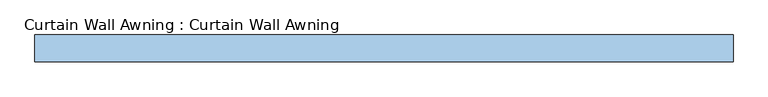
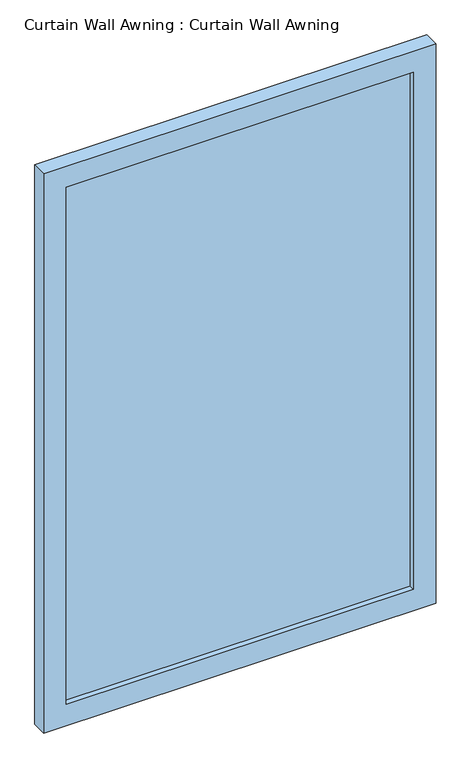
"""IFC4 building model written with IfcOpenShell, lengths in millimetres: window geometry, Curtain Wall Awning : Curtain Wall Awning."""

import ifcopenshell
import ifcopenshell.guid

model = None  # the IFC model being written
_history = None  # IfcOwnerHistory: only IFC2X3 demands one
_inside = {}  # id of a spatial element -> (the spatial element, [elements in it])
_under = {}  # id of a project, library or spatial element -> (it, [spatial elements below it])
_declared = {}  # id of a project -> (the project, [libraries it declares])
_typed = {}  # id of a type object -> (the type object, [elements of that type])
_made_of = {}  # id of a material, layer set ... -> (it, [elements and type objects made of it])


def new_model(schema):
    """Start an empty IFC model of exactly this schema.

    Asked for "IFC4X3", IfcOpenShell would pick the latest addendum, in which some entities
    have other attributes; the version numbers below select the first issue.
    IFC2X3 requires an IfcOwnerHistory on every rooted entity: one is made here for all.
    """
    global model, _history
    if schema == "IFC4X3":
        model = ifcopenshell.file(schema_version=(4, 3, 0, 0))
    else:
        model = ifcopenshell.file(schema=schema)
    _inside.clear()
    _under.clear()
    _declared.clear()
    _typed.clear()
    _made_of.clear()
    _history = None
    if model.schema == "IFC2X3":
        org = make("IfcOrganization", Name="unknown")
        user = make(
            "IfcPersonAndOrganization",
            ThePerson=make("IfcPerson", FamilyName="unknown"),
            TheOrganization=org,
        )
        app = make(
            "IfcApplication",
            ApplicationDeveloper=org,
            Version="unknown",
            ApplicationFullName="unknown",
            ApplicationIdentifier="unknown",
        )
        _history = make(
            "IfcOwnerHistory",
            OwningUser=user,
            OwningApplication=app,
            ChangeAction="ADDED",
            CreationDate=0,
        )
    return model


def make(cls, **values):
    """One entity of the class cls with the attributes given. An attribute that is None is left unset."""
    return model.create_entity(
        cls, **{name: value for name, value in values.items() if value is not None}
    )


def rooted(cls, **values):
    """An entity with a GlobalId (a new one), such as an element, a storey or a relation."""
    return make(cls, GlobalId=ifcopenshell.guid.new(), OwnerHistory=_history, **values)


def si_unit(unit_type, name, prefix=None):
    """IfcSIUnit, for example si_unit("LENGTHUNIT", "METRE", prefix="MILLI")."""
    return make("IfcSIUnit", UnitType=unit_type, Prefix=prefix, Name=name)


def assignment(units):
    """IfcUnitAssignment: the units of a project."""
    return None if units is None else make("IfcUnitAssignment", Units=units)


def point(xyz):
    """IfcCartesianPoint."""
    return None if xyz is None else make("IfcCartesianPoint", Coordinates=xyz)


def direction(xyz):
    """IfcDirection."""
    return None if xyz is None else make("IfcDirection", DirectionRatios=xyz)


def frame(location, z_axis=None, x_axis=None):
    """IfcAxis2Placement3D, a coordinate frame: its origin and axes. An axis left out is left unset."""
    return make(
        "IfcAxis2Placement3D",
        Location=point(location),
        Axis=direction(z_axis),
        RefDirection=direction(x_axis),
    )


def origin():
    """The frame at (0, 0, 0) with its axes left unset."""
    return frame((0.0, 0.0, 0.0))


def place(relative_to, where):
    """IfcLocalPlacement: puts the frame where relative to a parent placement (None: the world)."""
    return make(
        "IfcLocalPlacement", PlacementRelTo=relative_to, RelativePlacement=where
    )


def context(
    kind, dimensions, precision=None, world=None, true_north=None, identifier=None
):
    """IfcGeometricRepresentationContext, for example the 3D "Model" context."""
    return make(
        "IfcGeometricRepresentationContext",
        ContextIdentifier=identifier,
        ContextType=kind,
        CoordinateSpaceDimension=dimensions,
        Precision=precision,
        WorldCoordinateSystem=world,
        TrueNorth=true_north,
    )


def project(units=None, contexts=None):
    """IfcProject with its units and contexts."""
    return rooted(
        "IfcProject",
        Name="project",
        RepresentationContexts=contexts,
        UnitsInContext=assignment(units),
    )


def spatial(cls, under=None, at=None, **own):
    """A site, building, storey or space (cls), placed at a placement, below another one or the project."""
    s = rooted(cls, ObjectPlacement=at, **own)
    if under is not None:
        _under.setdefault(under.id(), (under, []))[1].append(s)
    return s


def polyline(points):
    """IfcPolyline through the points."""
    return make("IfcPolyline", Points=[point(p) for p in points])


def outline(outer, holes=None, kind="AREA"):
    """IfcArbitraryClosedProfileDef: a profile drawn as a closed curve; with holes, ...WithVoids."""
    if holes is None:
        return make("IfcArbitraryClosedProfileDef", ProfileType=kind, OuterCurve=outer)
    return make(
        "IfcArbitraryProfileDefWithVoids",
        ProfileType=kind,
        OuterCurve=outer,
        InnerCurves=holes,
    )


def extrude(swept, where, along, depth):
    """IfcExtrudedAreaSolid: the profile swept, set in the frame where, extruded along a direction by depth."""
    return make(
        "IfcExtrudedAreaSolid",
        SweptArea=swept,
        Position=where,
        ExtrudedDirection=direction(along),
        Depth=depth,
    )


def shape(context_of_items, identifier, shape_type, items):
    """IfcShapeRepresentation: the items that make up one representation, for example the "Body"."""
    return make(
        "IfcShapeRepresentation",
        ContextOfItems=context_of_items,
        RepresentationIdentifier=identifier,
        RepresentationType=shape_type,
        Items=items,
    )


def source(mapping_origin, context_of_items, identifier, shape_type, items):
    """IfcRepresentationMap: a shape defined once, which mapped items show again and again."""
    return make(
        "IfcRepresentationMap",
        MappingOrigin=mapping_origin,
        MappedRepresentation=shape(context_of_items, identifier, shape_type, items),
    )


def transform(
    local_origin,
    x_axis=None,
    y_axis=None,
    z_axis=None,
    scale=None,
    scale2=None,
    scale3=None,
    uniform=True,
):
    """IfcCartesianTransformationOperator3D, or its non-uniform kind. x_axis, y_axis, z_axis: its Axis1, 2, 3."""
    if uniform:
        return make(
            "IfcCartesianTransformationOperator3D",
            Axis1=direction(x_axis),
            Axis2=direction(y_axis),
            LocalOrigin=point(local_origin),
            Scale=scale,
            Axis3=direction(z_axis),
        )
    return make(
        "IfcCartesianTransformationOperator3DnonUniform",
        Axis1=direction(x_axis),
        Axis2=direction(y_axis),
        LocalOrigin=point(local_origin),
        Scale=scale,
        Axis3=direction(z_axis),
        Scale2=scale2,
        Scale3=scale3,
    )


def mapped(mapping_source, mapping_target):
    """IfcMappedItem: shows the shape of a source again, moved by a transform."""
    return make(
        "IfcMappedItem", MappingSource=mapping_source, MappingTarget=mapping_target
    )


def made_of(thing, what):
    """Note that an element or type object is made of a material, layer set ...; save() writes the relation."""
    if what is not None:
        _made_of.setdefault(what.id(), (what, []))[1].append(thing)
    return thing


def element(
    cls,
    number,
    at=None,
    inside=None,
    cuts=None,
    type_object=None,
    material=None,
    context=None,
    identifier="Body",
    shape_type=None,
    held_by="IfcProductDefinitionShape",
    body=None,
    shapes=None,
    **own,
):
    """One element of the class cls, such as IfcWall. Its Tag is "e" and its number.

    at: its placement. inside: the storey or other place that contains it. cuts: it is an
    opening in that element (IfcRelVoidsElement). A single representation is given by context,
    identifier, shape_type and body (its items); several are given by shapes. held_by: the class
    of the entity that holds the representations. save() writes the other relations.
    """
    e = rooted(cls, Tag="e%d" % number, ObjectPlacement=at, **own)
    if body is not None:
        shapes = [shape(context, identifier, shape_type, body)]
    if shapes is not None:
        e.Representation = make(held_by, Representations=shapes)
    if inside is not None:
        _inside.setdefault(inside.id(), (inside, []))[1].append(e)
    if cuts is not None:
        rooted(
            "IfcRelVoidsElement", RelatingBuildingElement=cuts, RelatedOpeningElement=e
        )
    if type_object is not None:
        _typed.setdefault(type_object.id(), (type_object, []))[1].append(e)
    return made_of(e, material)


def aggregate(whole, parts):
    """IfcRelAggregates: a whole, such as a stair, and the parts it consists of."""
    return rooted("IfcRelAggregates", RelatingObject=whole, RelatedObjects=parts)


def save(model, path):
    """Write the relations noted so far, then the file.

    IfcRelAggregates (storeys below a building ...), IfcRelContainedInSpatialStructure (elements
    in a storey), IfcRelDefinesByType, IfcRelAssociatesMaterial and IfcRelDeclares: one each for
    every whole, place, type object, material and project.
    """
    for whole, parts in _under.values():
        aggregate(whole, parts)
    for where, things in _inside.values():
        rooted(
            "IfcRelContainedInSpatialStructure",
            RelatedElements=things,
            RelatingStructure=where,
        )
    for kind, things in _typed.values():
        rooted("IfcRelDefinesByType", RelatedObjects=things, RelatingType=kind)
    for what, things in _made_of.values():
        rooted("IfcRelAssociatesMaterial", RelatedObjects=things, RelatingMaterial=what)
    for by, libraries in _declared.values():
        rooted("IfcRelDeclares", RelatingContext=by, RelatedDefinitions=libraries)
    model.write(path)


def curtain_wall_awning_curtain_wall_awning_9225a8cb(model_context):
    return source(origin(), model_context, "Body", "SweptSolid", [
        extrude(outline(polyline([(587.3354543, 44.45), (-587.3354543, 44.45), (-587.3354543, 57.15), (587.3354543, 57.15), (587.3354543, 44.45)])), frame((0.0, 0.0, 76.2), z_axis=(0.0, 0.0, 1.0), x_axis=(1.0, 0.0, 0.0)), (0.0, 0.0, 1.0), 1847.6),
        extrude(outline(polyline([(2000.0, -663.5354543), (0.0, -663.5354543), (0.0, 663.5354543), (2000.0, 663.5354543), (2000.0, -663.5354543)]), holes=[polyline([(1923.8, -587.3354543), (1923.8, 587.3354543), (76.2, 587.3354543), (76.2, -587.3354543), (1923.8, -587.3354543)])]), frame((0.0, 25.4, 0.0), z_axis=(0.0, 1.0, 0.0), x_axis=(0.0, 0.0, 1.0)), (0.0, 0.0, 1.0), 50.8),
    ])


if __name__ == "__main__":
    model = new_model("IFC4")
    model_context = context("Model", 3, world=origin())
    ifc_project = project(units=[si_unit("LENGTHUNIT", "METRE", prefix="MILLI")], contexts=[model_context])
    site = spatial("IfcSite", under=ifc_project)
    building = spatial("IfcBuilding", under=site)
    placement = place(None, origin())
    curtain_wall_awning_curtain_wall_awning_shape = curtain_wall_awning_curtain_wall_awning_9225a8cb(model_context)
    element("IfcWindow", 1, ObjectType="Curtain Wall Awning : Curtain Wall Awning", at=placement, inside=building, context=model_context, shape_type="MappedRepresentation", body=[
        mapped(curtain_wall_awning_curtain_wall_awning_shape, transform((0.0, 0.0, 0.0), x_axis=(1.0, 0.0, 0.0), y_axis=(0.0, 1.0, 0.0), z_axis=(0.0, 0.0, 1.0))),
    ])
    save(model, "model.ifc")
